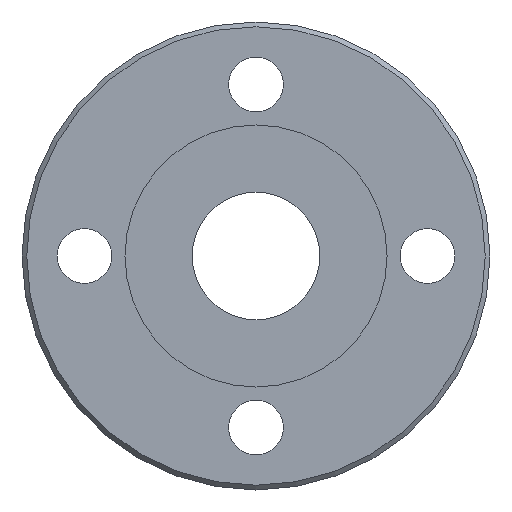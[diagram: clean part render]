
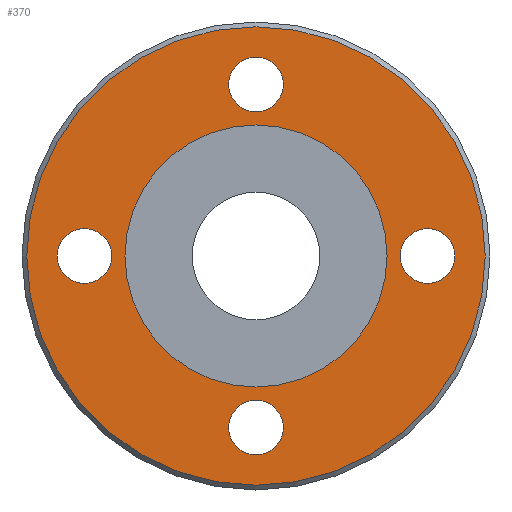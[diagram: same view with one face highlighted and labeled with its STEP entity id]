
A CAD part, left-side view. The second image highlights one B-rep face of the part: STEP entity #370.
In plain terms, the highlighted planar face has unit normal (-1, 0, 0).
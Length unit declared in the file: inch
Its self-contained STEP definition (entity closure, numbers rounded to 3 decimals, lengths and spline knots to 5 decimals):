
#15=FACE_BOUND('',#67,.T.);
#16=FACE_BOUND('',#68,.T.);
#17=FACE_BOUND('',#69,.T.);
#18=FACE_BOUND('',#70,.T.);
#19=FACE_BOUND('',#71,.T.);
#29=PLANE('',#414);
#47=FACE_OUTER_BOUND('',#66,.T.);
#66=EDGE_LOOP('',(#257));
#67=EDGE_LOOP('',(#258,#259));
#68=EDGE_LOOP('',(#260));
#69=EDGE_LOOP('',(#261));
#70=EDGE_LOOP('',(#262));
#71=EDGE_LOOP('',(#263));
#121=CIRCLE('',#408,2.8925);
#126=CIRCLE('',#415,1.6535);
#127=CIRCLE('',#416,1.6535);
#128=CIRCLE('',#417,0.345);
#129=CIRCLE('',#418,0.345);
#130=CIRCLE('',#419,0.345);
#131=CIRCLE('',#420,0.345);
#159=VERTEX_POINT('',#594);
#164=VERTEX_POINT('',#608);
#165=VERTEX_POINT('',#609);
#166=VERTEX_POINT('',#612);
#167=VERTEX_POINT('',#614);
#168=VERTEX_POINT('',#616);
#169=VERTEX_POINT('',#618);
#196=EDGE_CURVE('',#159,#159,#121,.T.);
#203=EDGE_CURVE('',#164,#165,#126,.T.);
#204=EDGE_CURVE('',#165,#164,#127,.T.);
#205=EDGE_CURVE('',#166,#166,#128,.T.);
#206=EDGE_CURVE('',#167,#167,#129,.T.);
#207=EDGE_CURVE('',#168,#168,#130,.T.);
#208=EDGE_CURVE('',#169,#169,#131,.T.);
#257=ORIENTED_EDGE('',*,*,#196,.F.);
#258=ORIENTED_EDGE('',*,*,#203,.F.);
#259=ORIENTED_EDGE('',*,*,#204,.F.);
#260=ORIENTED_EDGE('',*,*,#205,.T.);
#261=ORIENTED_EDGE('',*,*,#206,.T.);
#262=ORIENTED_EDGE('',*,*,#207,.T.);
#263=ORIENTED_EDGE('',*,*,#208,.T.);
#370=ADVANCED_FACE('',(#47,#15,#16,#17,#18,#19),#29,.T.);
#408=AXIS2_PLACEMENT_3D('',#595,#468,#469);
#414=AXIS2_PLACEMENT_3D('',#607,#482,#483);
#415=AXIS2_PLACEMENT_3D('',#610,#484,#485);
#416=AXIS2_PLACEMENT_3D('',#611,#486,#487);
#417=AXIS2_PLACEMENT_3D('',#613,#488,#489);
#418=AXIS2_PLACEMENT_3D('',#615,#490,#491);
#419=AXIS2_PLACEMENT_3D('',#617,#492,#493);
#420=AXIS2_PLACEMENT_3D('',#619,#494,#495);
#468=DIRECTION('center_axis',(1.,0.,0.));
#469=DIRECTION('ref_axis',(0.,-1.,0.));
#482=DIRECTION('center_axis',(-1.,0.,0.));
#483=DIRECTION('ref_axis',(0.,0.,1.));
#484=DIRECTION('center_axis',(-1.,0.,0.));
#485=DIRECTION('ref_axis',(0.,0.,1.));
#486=DIRECTION('center_axis',(-1.,0.,0.));
#487=DIRECTION('ref_axis',(0.,0.,1.));
#488=DIRECTION('center_axis',(1.,0.,0.));
#489=DIRECTION('ref_axis',(0.,0.,-1.));
#490=DIRECTION('center_axis',(1.,0.,0.));
#491=DIRECTION('ref_axis',(0.,-1.,0.));
#492=DIRECTION('center_axis',(1.,0.,0.));
#493=DIRECTION('ref_axis',(0.,0.,
1.));
#494=DIRECTION('center_axis',(1.,0.,0.));
#495=DIRECTION('ref_axis',(0.,1.,0.));
#594=CARTESIAN_POINT('',(-2.402,2.8925,0.));
#595=CARTESIAN_POINT('Origin',(-2.402,0.,0.));
#607=CARTESIAN_POINT('Origin',(-2.402,1.6535,0.));
#608=CARTESIAN_POINT('',(-2.402,1.6535,0.));
#609=CARTESIAN_POINT('',(-2.402,-1.6535,0.));
#610=CARTESIAN_POINT('Origin',(-2.402,0.,0.));
#611=CARTESIAN_POINT('Origin',(-2.402,0.,0.));
#612=CARTESIAN_POINT('',(-2.402,0.,2.51));
#613=CARTESIAN_POINT('Origin',(-2.402,0.,2.165));
#614=CARTESIAN_POINT('',(-2.402,2.51,0.));
#615=CARTESIAN_POINT('Origin',(-2.402,2.165,0.));
#616=CARTESIAN_POINT('',(-2.402,0.,-2.51));
#617=CARTESIAN_POINT('Origin',(-2.402,0.,-2.165));
#618=CARTESIAN_POINT('',(-2.402,-2.51,0.));
#619=CARTESIAN_POINT('Origin',(-2.402,-2.165,0.));
